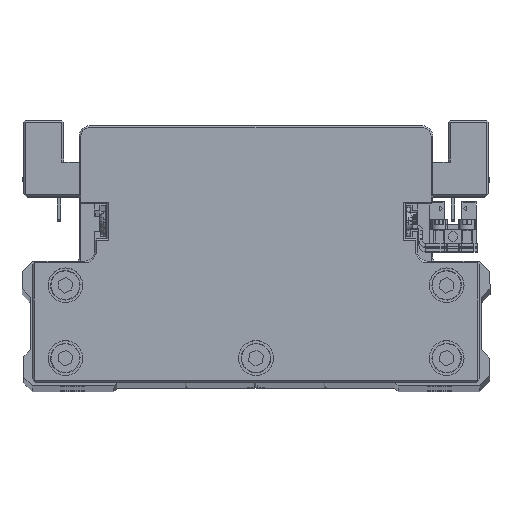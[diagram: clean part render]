
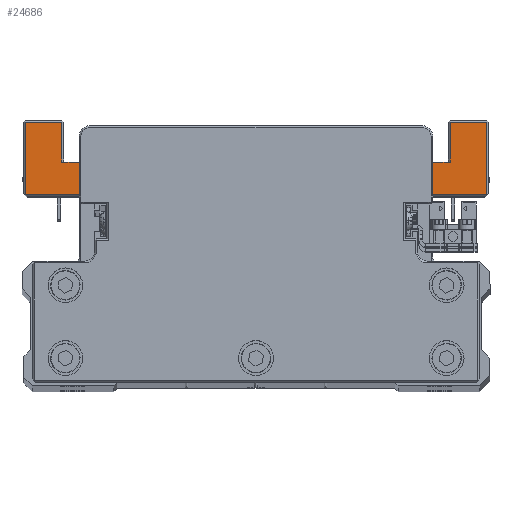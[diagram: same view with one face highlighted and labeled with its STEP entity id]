
A CAD part, top view. The second image highlights one B-rep face of the part: STEP entity #24686.
In plain terms, the highlighted planar face has unit normal (0, 0, 1) as drawn and (0, -1, 0) by its records, which use the part's own axes.
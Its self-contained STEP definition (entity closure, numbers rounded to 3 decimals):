
#108 = CARTESIAN_POINT ( 'NONE',  ( -66.5, -45., -64.5 ) ) ;
#273 = DIRECTION ( 'NONE',  ( -1., 0., 0. ) ) ;
#591 = CARTESIAN_POINT ( 'NONE',  ( 55.5, -45., -52.5 ) ) ;
#710 = DIRECTION ( 'NONE',  ( 0., 0., -1. ) ) ;
#1075 = EDGE_CURVE ( 'NONE', #11791, #23303, #7550, .T. ) ;
#1231 = EDGE_LOOP ( 'NONE', ( #1871, #34493, #25077, #34084, #22009, #39808, #25493, #1825, #38910, #1598, #29531, #8998, #5886, #18151, #28972, #10198, #3731, #22819 ) ) ;
#1425 = EDGE_CURVE ( 'NONE', #20044, #25232, #3851, .T. ) ;
#1598 = ORIENTED_EDGE ( 'NONE', *, *, #24266, .T. ) ;
#1645 = CARTESIAN_POINT ( 'NONE',  ( 0., -45., 0. ) ) ;
#1663 = CARTESIAN_POINT ( 'NONE',  ( -46., -45., -52.5 ) ) ;
#1713 = CARTESIAN_POINT ( 'NONE',  ( 40.066, -45., -43. ) ) ;
#1825 = ORIENTED_EDGE ( 'NONE', *, *, #32294, .F. ) ;
#1871 = ORIENTED_EDGE ( 'NONE', *, *, #24574, .T. ) ;
#2452 = CARTESIAN_POINT ( 'NONE',  ( 40.066, -45., -43. ) ) ;
#2521 = VERTEX_POINT ( 'NONE', #2452 ) ;
#3148 = VERTEX_POINT ( 'NONE', #16415 ) ;
#3670 = EDGE_CURVE ( 'NONE', #7725, #2521, #29608, .T. ) ;
#3731 = ORIENTED_EDGE ( 'NONE', *, *, #31487, .T. ) ;
#3764 = CARTESIAN_POINT ( 'NONE',  ( -39.868, -45., -42.987 ) ) ;
#3851 = LINE ( 'NONE', #16265, #13298 ) ;
#3873 = VECTOR ( 'NONE', #14070, 1000. ) ;
#3909 = DIRECTION ( 'NONE',  ( 0., 0., 1. ) ) ;
#4990 = CARTESIAN_POINT ( 'NONE',  ( -39.868, -45., -42.987 ) ) ;
#5359 = LINE ( 'NONE', #17782, #24280 ) ;
#5420 = AXIS2_PLACEMENT_3D ( 'NONE', #34573, #6659, #19081 ) ;
#5732 = CIRCLE ( 'NONE', #28497, 1.5 ) ;
#5886 = ORIENTED_EDGE ( 'NONE', *, *, #10306, .T. ) ;
#6659 = DIRECTION ( 'NONE',  ( 0., 1., 0. ) ) ;
#7178 = DIRECTION ( 'NONE',  ( 0., 0., -1. ) ) ;
#7550 = LINE ( 'NONE', #19962, #37423 ) ;
#7725 = VERTEX_POINT ( 'NONE', #24899 ) ;
#7791 = LINE ( 'NONE', #20206, #38572 ) ;
#8449 = VERTEX_POINT ( 'NONE', #14971 ) ;
#8998 = ORIENTED_EDGE ( 'NONE', *, *, #19816, .F. ) ;
#9361 = VECTOR ( 'NONE', #12990, 1000. ) ;
#9779 = CARTESIAN_POINT ( 'NONE',  ( 39.868, -45., -42.987 ) ) ;
#10011 = DIRECTION ( 'NONE',  ( -1., 0., 0. ) ) ;
#10141 = CARTESIAN_POINT ( 'NONE',  ( 56., -45., -64. ) ) ;
#10198 = ORIENTED_EDGE ( 'NONE', *, *, #3670, .T. ) ;
#10306 = EDGE_CURVE ( 'NONE', #11357, #18220, #22661, .T. ) ;
#10380 = CARTESIAN_POINT ( 'NONE',  ( -56., -45., -52.5 ) ) ;
#10605 = VECTOR ( 'NONE', #3909, 1000. ) ;
#10949 = DIRECTION ( 'NONE',  ( -0.991, 0., 0.132 ) ) ;
#11266 = EDGE_CURVE ( 'NONE', #33955, #31029, #26432, .T. ) ;
#11357 = VERTEX_POINT ( 'NONE', #34362 ) ;
#11428 = VECTOR ( 'NONE', #12506, 1000. ) ;
#11791 = VERTEX_POINT ( 'NONE', #15367 ) ;
#12506 = DIRECTION ( 'NONE',  ( 0., 0., -1. ) ) ;
#12973 = EDGE_CURVE ( 'NONE', #21765, #11791, #5732, .T. ) ;
#12990 = DIRECTION ( 'NONE',  ( -1., 0., 0. ) ) ;
#13298 = VECTOR ( 'NONE', #28689, 1000. ) ;
#14050 = DIRECTION ( 'NONE',  ( 0., -1., 0. ) ) ;
#14070 = DIRECTION ( 'NONE',  ( 0., 0., 1. ) ) ;
#14121 = DIRECTION ( 'NONE',  ( -1., 0., 0. ) ) ;
#14894 = VERTEX_POINT ( 'NONE', #35468 ) ;
#14971 = CARTESIAN_POINT ( 'NONE',  ( 66.5, -45., -64. ) ) ;
#15367 = CARTESIAN_POINT ( 'NONE',  ( -40.066, -45., -43. ) ) ;
#15382 = LINE ( 'NONE', #27811, #26274 ) ;
#15492 = VECTOR ( 'NONE', #7178, 1000. ) ;
#15731 = LINE ( 'NONE', #28159, #34431 ) ;
#15769 = EDGE_CURVE ( 'NONE', #18220, #8449, #5359, .T. ) ;
#15957 = CARTESIAN_POINT ( 'NONE',  ( -36.217, -45., -42.5 ) ) ;
#16174 = CARTESIAN_POINT ( 'NONE',  ( -40.066, -45., -41.5 ) ) ;
#16265 = CARTESIAN_POINT ( 'NONE',  ( -55.5, -45., -64. ) ) ;
#16415 = CARTESIAN_POINT ( 'NONE',  ( -46., -45., -52.5 ) ) ;
#17099 = FACE_OUTER_BOUND ( 'NONE', #1231, .T. ) ;
#17401 = DIRECTION ( 'NONE',  ( -0.991, 0., -0.132 ) ) ;
#17550 = VERTEX_POINT ( 'NONE', #36681 ) ;
#17782 = CARTESIAN_POINT ( 'NONE',  ( 67., -45., -64. ) ) ;
#18151 = ORIENTED_EDGE ( 'NONE', *, *, #15769, .T. ) ;
#18220 = VERTEX_POINT ( 'NONE', #10141 ) ;
#19081 = DIRECTION ( 'NONE',  ( 0., 0., -1. ) ) ;
#19371 = LINE ( 'NONE', #31807, #10605 ) ;
#19718 = VECTOR ( 'NONE', #10011, 1000. ) ;
#19816 = EDGE_CURVE ( 'NONE', #11357, #21408, #28485, .T. ) ;
#19908 = CARTESIAN_POINT ( 'NONE',  ( -66.5, -45., -43. ) ) ;
#19962 = CARTESIAN_POINT ( 'NONE',  ( -66., -45., -43. ) ) ;
#20044 = VERTEX_POINT ( 'NONE', #22118 ) ;
#20206 = CARTESIAN_POINT ( 'NONE',  ( 46., -45., -54. ) ) ;
#21408 = VERTEX_POINT ( 'NONE', #29435 ) ;
#21511 = VECTOR ( 'NONE', #22798, 1000. ) ;
#21655 = EDGE_CURVE ( 'NONE', #23303, #20044, #28000, .T. ) ;
#21765 = VERTEX_POINT ( 'NONE', #3764 ) ;
#22009 = ORIENTED_EDGE ( 'NONE', *, *, #21655, .T. ) ;
#22118 = CARTESIAN_POINT ( 'NONE',  ( -66.5, -45., -64. ) ) ;
#22389 = CARTESIAN_POINT ( 'NONE',  ( 36.217, -45., -42.5 ) ) ;
#22661 = LINE ( 'NONE', #35089, #15492 ) ;
#22798 = DIRECTION ( 'NONE',  ( 0., 0., 1. ) ) ;
#22819 = ORIENTED_EDGE ( 'NONE', *, *, #11266, .T. ) ;
#22975 = CIRCLE ( 'NONE', #5420, 1.5 ) ;
#23303 = VERTEX_POINT ( 'NONE', #19908 ) ;
#24266 = EDGE_CURVE ( 'NONE', #28258, #17550, #7791, .T. ) ;
#24280 = VECTOR ( 'NONE', #30217, 1000. ) ;
#24530 = CARTESIAN_POINT ( 'NONE',  ( -56., -45., -64. ) ) ;
#24574 = EDGE_CURVE ( 'NONE', #31029, #34799, #25472, .T. ) ;
#24686 = ADVANCED_FACE ( 'NONE', ( #17099 ), #29537, .T. ) ;
#24899 = CARTESIAN_POINT ( 'NONE',  ( 66.5, -45., -43. ) ) ;
#24998 = VECTOR ( 'NONE', #14121, 1000. ) ;
#25077 = ORIENTED_EDGE ( 'NONE', *, *, #12973, .T. ) ;
#25232 = VERTEX_POINT ( 'NONE', #24530 ) ;
#25472 = LINE ( 'NONE', #37895, #19718 ) ;
#25493 = ORIENTED_EDGE ( 'NONE', *, *, #34023, .T. ) ;
#26243 = AXIS2_PLACEMENT_3D ( 'NONE', #1645, #14050, #26485 ) ;
#26274 = VECTOR ( 'NONE', #40228, 1000. ) ;
#26432 = LINE ( 'NONE', #38852, #31315 ) ;
#26485 = DIRECTION ( 'NONE',  ( 0., 0., -1. ) ) ;
#27125 = EDGE_CURVE ( 'NONE', #8449, #7725, #19371, .T. ) ;
#27811 = CARTESIAN_POINT ( 'NONE',  ( 46., -45., -52.5 ) ) ;
#28000 = LINE ( 'NONE', #108, #11428 ) ;
#28109 = EDGE_CURVE ( 'NONE', #21408, #17550, #15382, .T. ) ;
#28159 = CARTESIAN_POINT ( 'NONE',  ( -55.5, -45., -52.5 ) ) ;
#28258 = VERTEX_POINT ( 'NONE', #37773 ) ;
#28485 = LINE ( 'NONE', #591, #9361 ) ;
#28497 = AXIS2_PLACEMENT_3D ( 'NONE', #16174, #28600, #710 ) ;
#28600 = DIRECTION ( 'NONE',  ( 0., 1., 0. ) ) ;
#28689 = DIRECTION ( 'NONE',  ( 1., 0., 0. ) ) ;
#28816 = VECTOR ( 'NONE', #17401, 1000. ) ;
#28913 = LINE ( 'NONE', #10380, #21511 ) ;
#28972 = ORIENTED_EDGE ( 'NONE', *, *, #27125, .T. ) ;
#29435 = CARTESIAN_POINT ( 'NONE',  ( 46., -45., -52.5 ) ) ;
#29531 = ORIENTED_EDGE ( 'NONE', *, *, #28109, .F. ) ;
#29537 = PLANE ( 'NONE',  #26243 ) ;
#29556 = LINE ( 'NONE', #1663, #3873 ) ;
#29608 = LINE ( 'NONE', #1713, #24998 ) ;
#29721 = EDGE_CURVE ( 'NONE', #34799, #21765, #32886, .T. ) ;
#30217 = DIRECTION ( 'NONE',  ( 1., 0., 0. ) ) ;
#31029 = VERTEX_POINT ( 'NONE', #22389 ) ;
#31315 = VECTOR ( 'NONE', #10949, 1000. ) ;
#31487 = EDGE_CURVE ( 'NONE', #2521, #33955, #22975, .T. ) ;
#31807 = CARTESIAN_POINT ( 'NONE',  ( 66.5, -45., -43.5 ) ) ;
#32294 = EDGE_CURVE ( 'NONE', #3148, #14894, #15731, .T. ) ;
#32396 = DIRECTION ( 'NONE',  ( -1., 0., 0. ) ) ;
#32553 = EDGE_CURVE ( 'NONE', #28258, #3148, #29556, .T. ) ;
#32645 = DIRECTION ( 'NONE',  ( 1., 0., 0. ) ) ;
#32886 = LINE ( 'NONE', #4990, #28816 ) ;
#33955 = VERTEX_POINT ( 'NONE', #9779 ) ;
#34023 = EDGE_CURVE ( 'NONE', #25232, #14894, #28913, .T. ) ;
#34084 = ORIENTED_EDGE ( 'NONE', *, *, #1075, .T. ) ;
#34362 = CARTESIAN_POINT ( 'NONE',  ( 56., -45., -52.5 ) ) ;
#34431 = VECTOR ( 'NONE', #273, 1000. ) ;
#34493 = ORIENTED_EDGE ( 'NONE', *, *, #29721, .T. ) ;
#34573 = CARTESIAN_POINT ( 'NONE',  ( 40.066, -45., -41.5 ) ) ;
#34799 = VERTEX_POINT ( 'NONE', #15957 ) ;
#35089 = CARTESIAN_POINT ( 'NONE',  ( 56., -45., -64.5 ) ) ;
#35468 = CARTESIAN_POINT ( 'NONE',  ( -56., -45., -52.5 ) ) ;
#36681 = CARTESIAN_POINT ( 'NONE',  ( 46., -45., -54. ) ) ;
#37423 = VECTOR ( 'NONE', #32396, 1000. ) ;
#37773 = CARTESIAN_POINT ( 'NONE',  ( -46., -45., -54. ) ) ;
#37895 = CARTESIAN_POINT ( 'NONE',  ( -77.786, -45., -42.5 ) ) ;
#38572 = VECTOR ( 'NONE', #32645, 1000. ) ;
#38852 = CARTESIAN_POINT ( 'NONE',  ( 25.802, -45., -41.111 ) ) ;
#38910 = ORIENTED_EDGE ( 'NONE', *, *, #32553, .F. ) ;
#39808 = ORIENTED_EDGE ( 'NONE', *, *, #1425, .T. ) ;
#40228 = DIRECTION ( 'NONE',  ( 0., 0., -1. ) ) ;
